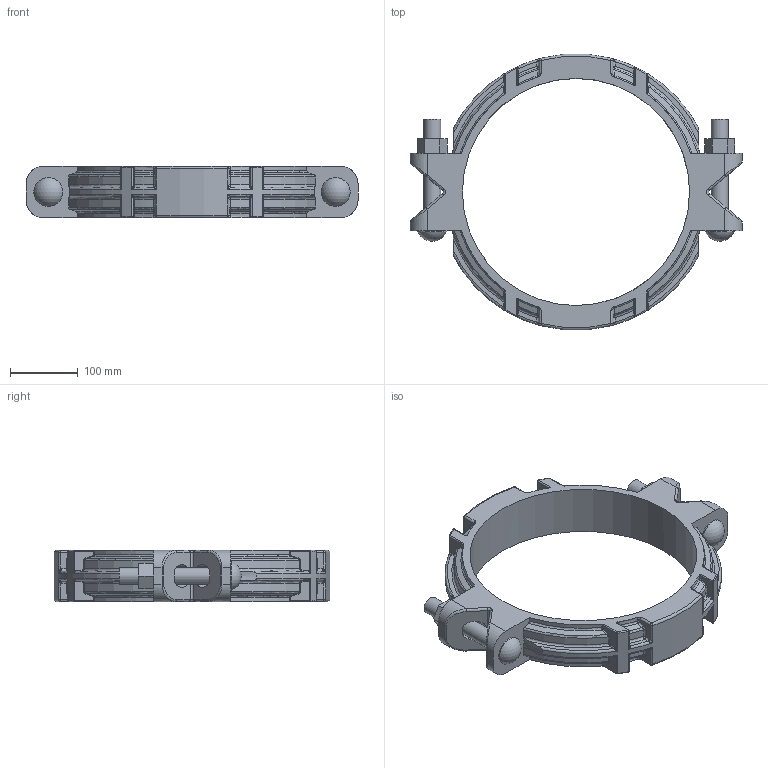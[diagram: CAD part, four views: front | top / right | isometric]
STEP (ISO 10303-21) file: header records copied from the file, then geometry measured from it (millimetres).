
FILE_DESCRIPTION(/* description */ ('VIC COUPLING STYLE XL 79','CAx-IF Rec.Pracs.---Representation and Presentation of Product Manufacturing Information (PMI)---4.0---2014-10-13'),/* implementation_level */ '2;1');
FILE_NAME(/* name */ 'C:\Users\kkamble\AppData\Roaming\Autodesk\ApplicationPlugins\Back Up\Victaulic_IPS-XL_Coupling_Style XL79 (XLG)\Victaulic_IPS-XL_Coupling_Style XL79 (XLG)_12 (300).stp',/* time_stamp */ '2020-08-05T13:50:18+05:00',/* author */ ('jheald'),/* organization */ ('Victaulic'),/* preprocessor_version */ 'ST-DEVELOPER v17.2',/* originating_system */ 'Autodesk Inventor 2019',/* authorisation */ '');
FILE_SCHEMA (('AP242_MANAGED_MODEL_BASED_3D_ENGINEERING_MIM_LF { 1 0 10303 442 1 1 4 }'));
Length unit declared in the file: inch
Products named in the file (1): XL79-12.0
Bounding box: 491.85 x 408.19 x 76.2 mm (x, y, z)
Volume: 3001902.8 mm3; surface area: 334547.4 mm2
Topology: 1 solids, 1 shells, 575 faces, 1375 edges, 788 vertices
Faces by surface type: cylinder 195, bspline 160, plane 82, torus 80, sphere 42, cone 16
Full cylindrical faces by diameter (mm): 25.4 x4, 42.85 x2, 336.55 x1
Entity records: 22601 total; most frequent: CARTESIAN_POINT 9616, ORIENTED_EDGE 2702, DIRECTION 2405, EDGE_CURVE 1351, AXIS2_PLACEMENT_3D 1005, VERTEX_POINT 788, EDGE_LOOP 591, STYLED_ITEM 577
